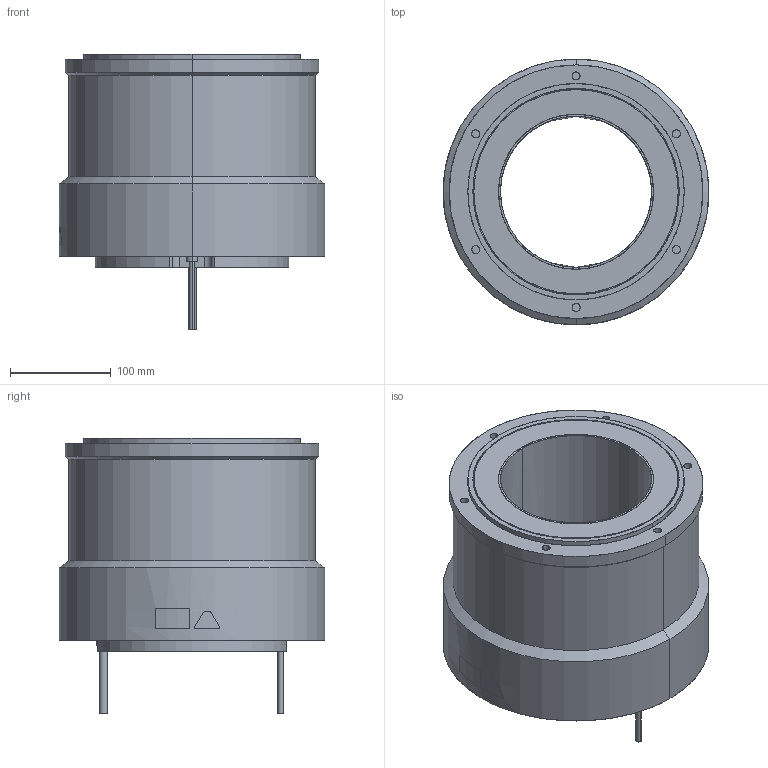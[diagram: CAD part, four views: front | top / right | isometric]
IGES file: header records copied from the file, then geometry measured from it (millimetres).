
Start section: SolidWorks IGES file using analytic representation for surfaces
Bounding box: 264.08 x 264 x 274 mm (x, y, z)
Surface area: 356867.3 mm2 (no closed solid volume)
Topology: 0 solids, 0 shells, 171 faces, 3659 edges, 3659 vertices
Faces by surface type: revolution 107, bspline 64
